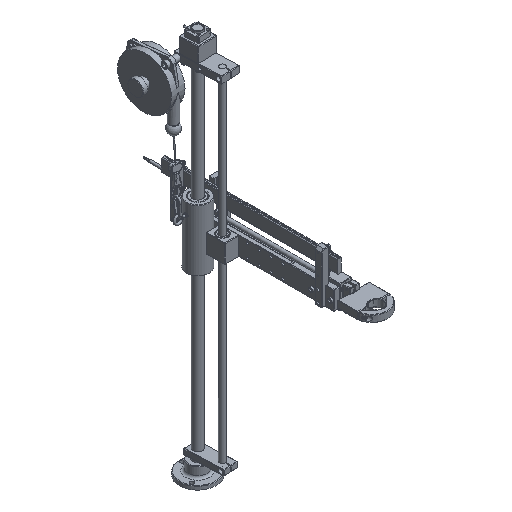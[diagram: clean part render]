
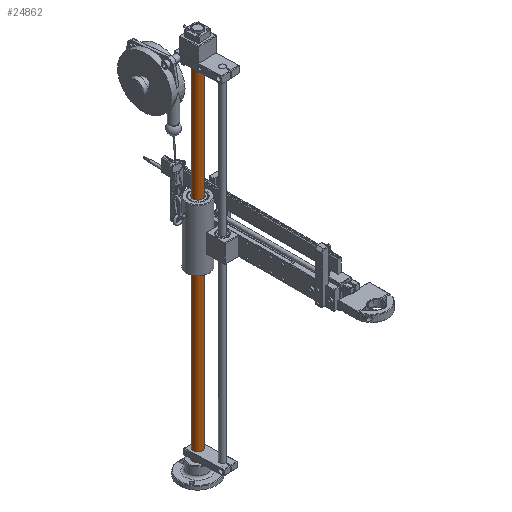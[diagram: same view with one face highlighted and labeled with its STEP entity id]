
A CAD part, isometric view. The second image highlights one B-rep face of the part: STEP entity #24862.
In plain terms, the highlighted cylindrical face has radius 10 mm (diameter 20 mm), a full revolution.
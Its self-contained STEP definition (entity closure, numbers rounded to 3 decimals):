
#8645=ORIENTED_EDGE('',*,*,#14514,.T.);
#8646=ORIENTED_EDGE('',*,*,#14513,.T.);
#14513=EDGE_CURVE('',#17456,#17456,#19481,.T.);
#14514=EDGE_CURVE('',#17457,#17457,#19482,.T.);
#17456=VERTEX_POINT('',#35448);
#17457=VERTEX_POINT('',#35451);
#19481=CIRCLE('',#26504,10.);
#19482=CIRCLE('',#26506,10.);
#20377=EDGE_LOOP('',(#8645));
#20378=EDGE_LOOP('',(#8646));
#22391=FACE_BOUND('',#20377,.T.);
#22392=FACE_BOUND('',#20378,.T.);
#24405=CYLINDRICAL_SURFACE('',#26505,10.);
#24862=ADVANCED_FACE('',(#22391,#22392),#24405,.T.);
#26504=AXIS2_PLACEMENT_3D('',#35447,#28944,#28945);
#26505=AXIS2_PLACEMENT_3D('',#35449,#28946,#28947);
#26506=AXIS2_PLACEMENT_3D('',#35450,#28948,#28949);
#28944=DIRECTION('',(0.,0.,-1.));
#28945=DIRECTION('',(-1.,0.,0.));
#28946=DIRECTION('',(0.,0.,-1.));
#28947=DIRECTION('',(-1.,0.,0.));
#28948=DIRECTION('',(0.,0.,1.));
#28949=DIRECTION('',(-1.,0.,0.));
#35447=CARTESIAN_POINT('',(0.,0.,799.));
#35448=CARTESIAN_POINT('',(-10.,0.,799.));
#35449=CARTESIAN_POINT('',(0.,0.,800.));
#35450=CARTESIAN_POINT('',(0.,0.,35.));
#35451=CARTESIAN_POINT('',(-10.,0.,35.));
